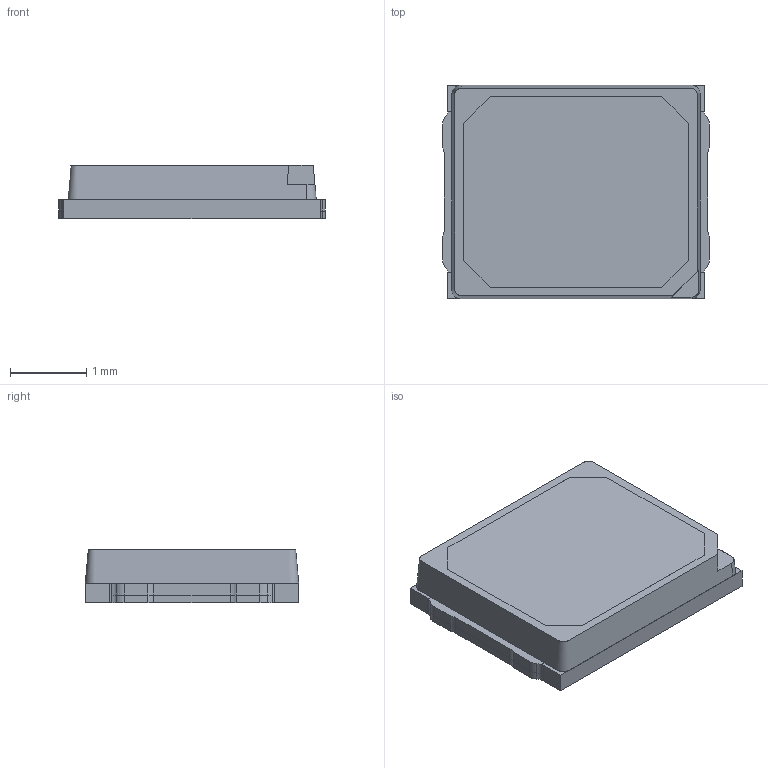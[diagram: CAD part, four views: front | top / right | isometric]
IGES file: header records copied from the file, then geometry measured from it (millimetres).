
Start section: SolidWorks IGES file using analytic representation for surfaces
Global section: file name: C:\Users\user\Desktop\XYY\1-车灯产品3D图汇总\2835\模型\LWG-光学模型-OK\LWG.IGS; native system: SolidWorks 2022; preprocessor: SolidWorks 2022; author: user; date: 250426.150719; units: millimetre
Bounding box: 3.5 x 2.8 x 0.7 mm (x, y, z)
Surface area: 64 mm2 (no closed solid volume)
Topology: 0 solids, 0 shells, 245 faces, 2358 edges, 3053 vertices
Faces by surface type: bspline 137, revolution 108
